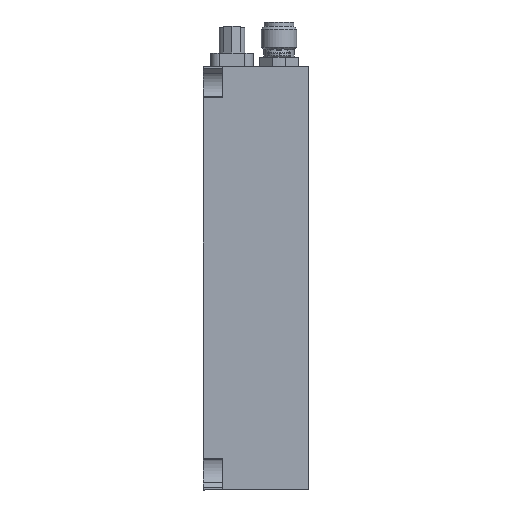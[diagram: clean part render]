
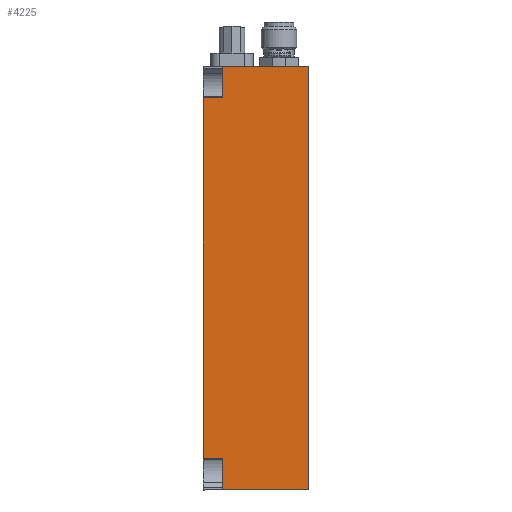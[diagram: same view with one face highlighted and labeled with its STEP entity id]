
A CAD part, left-side view. The second image highlights one B-rep face of the part: STEP entity #4225.
In plain terms, the highlighted planar face has unit normal (-1, 0, 0).
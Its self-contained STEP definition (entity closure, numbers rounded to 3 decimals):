
#225 = FACE_OUTER_BOUND ( 'NONE', #34911, .T. ) ;
#304 = VERTEX_POINT ( 'NONE', #3375 ) ;
#1064 = ORIENTED_EDGE ( 'NONE', *, *, #18949, .F. ) ;
#1084 = EDGE_CURVE ( 'NONE', #23325, #2647, #26901, .T. ) ;
#1445 = LINE ( 'NONE', #35154, #26935 ) ;
#1672 = ORIENTED_EDGE ( 'NONE', *, *, #22378, .F. ) ;
#1729 = VECTOR ( 'NONE', #32574, 1000. ) ;
#1983 = LINE ( 'NONE', #31493, #5329 ) ;
#2647 = VERTEX_POINT ( 'NONE', #24853 ) ;
#3375 = CARTESIAN_POINT ( 'NONE',  ( -5.352, 51.092, 17.901 ) ) ;
#3571 = ORIENTED_EDGE ( 'NONE', *, *, #21999, .T. ) ;
#4225 = ADVANCED_FACE ( 'NONE', ( #225 ), #23627, .F. ) ;
#5028 = EDGE_CURVE ( 'NONE', #26363, #20270, #32085, .T. ) ;
#5329 = VECTOR ( 'NONE', #14781, 1000. ) ;
#6449 = CARTESIAN_POINT ( 'NONE',  ( -5.352, 51.092, 94.101 ) ) ;
#7394 = CARTESIAN_POINT ( 'NONE',  ( -5.352, 54.648, 17.901 ) ) ;
#7414 = CARTESIAN_POINT ( 'NONE',  ( -5.352, 54.648, 17.901 ) ) ;
#7569 = VERTEX_POINT ( 'NONE', #21929 ) ;
#9323 = CARTESIAN_POINT ( 'NONE',  ( -5.352, 51.092, 23.566 ) ) ;
#10599 = CARTESIAN_POINT ( 'NONE',  ( -5.352, 51.092, 88.437 ) ) ;
#10704 = VECTOR ( 'NONE', #25518, 1000. ) ;
#11796 = ORIENTED_EDGE ( 'NONE', *, *, #1084, .T. ) ;
#11952 = DIRECTION ( 'NONE',  ( 0., 0., 1. ) ) ;
#12870 = DIRECTION ( 'NONE',  ( 0., 0., -1. ) ) ;
#13217 = CARTESIAN_POINT ( 'NONE',  ( -5.352, 35.598, 17.901 ) ) ;
#14433 = LINE ( 'NONE', #10599, #1729 ) ;
#14711 = EDGE_CURVE ( 'NONE', #26363, #7569, #14433, .T. ) ;
#14781 = DIRECTION ( 'NONE',  ( 0., 0., 1. ) ) ;
#15182 = EDGE_CURVE ( 'NONE', #20651, #7569, #26371, .T. ) ;
#15442 = VECTOR ( 'NONE', #23386, 1000. ) ;
#17106 = LINE ( 'NONE', #19471, #24793 ) ;
#18850 = CARTESIAN_POINT ( 'NONE',  ( -5.352, 51.092, 94.101 ) ) ;
#18949 = EDGE_CURVE ( 'NONE', #304, #24266, #1983, .T. ) ;
#19471 = CARTESIAN_POINT ( 'NONE',  ( -5.352, 51.092, 23.566 ) ) ;
#19542 = VECTOR ( 'NONE', #11952, 1000. ) ;
#19655 = VECTOR ( 'NONE', #33622, 1000. ) ;
#20270 = VERTEX_POINT ( 'NONE', #18850 ) ;
#20651 = VERTEX_POINT ( 'NONE', #34371 ) ;
#21929 = CARTESIAN_POINT ( 'NONE',  ( -5.352, 54.648, 88.437 ) ) ;
#21999 = EDGE_CURVE ( 'NONE', #304, #23325, #24416, .T. ) ;
#22073 = AXIS2_PLACEMENT_3D ( 'NONE', #7414, #29243, #12870 ) ;
#22378 = EDGE_CURVE ( 'NONE', #20270, #2647, #1445, .T. ) ;
#22647 = CARTESIAN_POINT ( 'NONE',  ( -5.352, 35.598, 17.901 ) ) ;
#22862 = EDGE_CURVE ( 'NONE', #24266, #20651, #17106, .T. ) ;
#23325 = VERTEX_POINT ( 'NONE', #13217 ) ;
#23386 = DIRECTION ( 'NONE',  ( 0., -1., 0. ) ) ;
#23627 = PLANE ( 'NONE',  #22073 ) ;
#24266 = VERTEX_POINT ( 'NONE', #9323 ) ;
#24299 = DIRECTION ( 'NONE',  ( 0., -1., 0. ) ) ;
#24416 = LINE ( 'NONE', #7394, #15442 ) ;
#24469 = ORIENTED_EDGE ( 'NONE', *, *, #22862, .F. ) ;
#24721 = DIRECTION ( 'NONE',  ( 0., 1., 0. ) ) ;
#24793 = VECTOR ( 'NONE', #24721, 1000. ) ;
#24853 = CARTESIAN_POINT ( 'NONE',  ( -5.352, 35.598, 94.101 ) ) ;
#24948 = CARTESIAN_POINT ( 'NONE',  ( -5.352, 51.092, 88.437 ) ) ;
#25518 = DIRECTION ( 'NONE',  ( 0., 0., 1. ) ) ;
#26363 = VERTEX_POINT ( 'NONE', #24948 ) ;
#26371 = LINE ( 'NONE', #28081, #19542 ) ;
#26901 = LINE ( 'NONE', #22647, #19655 ) ;
#26935 = VECTOR ( 'NONE', #24299, 1000. ) ;
#28081 = CARTESIAN_POINT ( 'NONE',  ( -5.352, 54.648, 17.901 ) ) ;
#29243 = DIRECTION ( 'NONE',  ( 1., 0., 0. ) ) ;
#29534 = ORIENTED_EDGE ( 'NONE', *, *, #15182, .F. ) ;
#31421 = ORIENTED_EDGE ( 'NONE', *, *, #5028, .F. ) ;
#31493 = CARTESIAN_POINT ( 'NONE',  ( -5.352, 51.092, 17.901 ) ) ;
#32085 = LINE ( 'NONE', #6449, #10704 ) ;
#32574 = DIRECTION ( 'NONE',  ( 0., 1., 0. ) ) ;
#32745 = ORIENTED_EDGE ( 'NONE', *, *, #14711, .T. ) ;
#33622 = DIRECTION ( 'NONE',  ( 0., 0., 1. ) ) ;
#34371 = CARTESIAN_POINT ( 'NONE',  ( -5.352, 54.648, 23.566 ) ) ;
#34911 = EDGE_LOOP ( 'NONE', ( #29534, #24469, #1064, #3571, #11796, #1672, #31421, #32745 ) ) ;
#35154 = CARTESIAN_POINT ( 'NONE',  ( -5.352, 54.648, 94.101 ) ) ;
